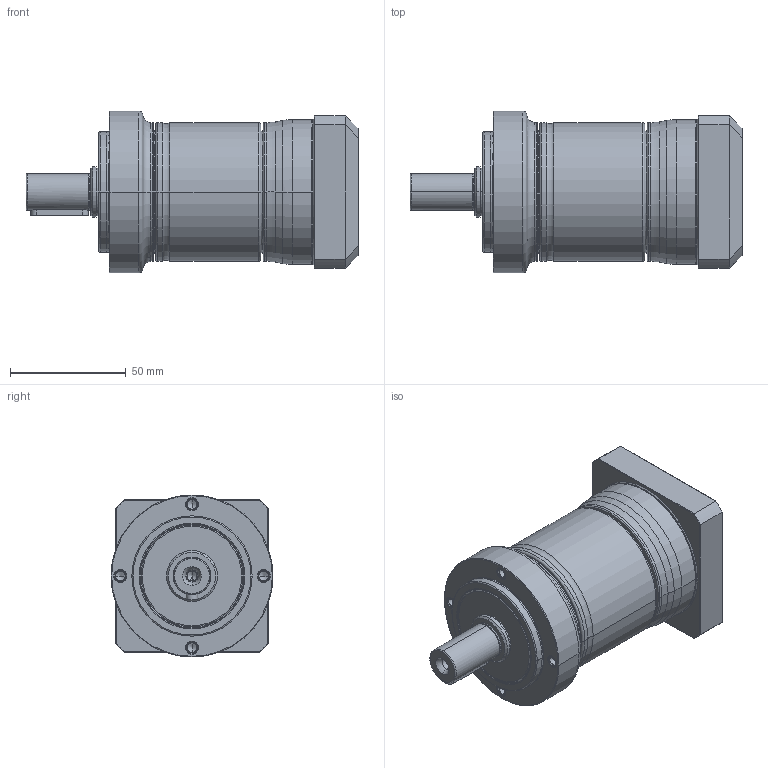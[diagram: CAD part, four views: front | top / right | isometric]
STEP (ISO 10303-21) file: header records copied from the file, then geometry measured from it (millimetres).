
FILE_DESCRIPTION((''),'2;1');
FILE_NAME('PE2-070_2ST_14-P0411300101_ASM','2016-04-27T',('d00435'),(''),'PRO/ENGINEER BY PARAMETRIC TECHNOLOGY CORPORATION, 2008410','PRO/ENGINEER BY PARAMETRIC TECHNOLOGY CORPORATION, 2008410','');
FILE_SCHEMA(('CONFIG_CONTROL_DESIGN'));
Length unit declared in the file: millimetre
Products named in the file (9): P1323210001; P0251200001; P1324200201; P0350201001; P0941202001; P0503300005; P0411300101; P1702300001; PE2-070_2ST_14-P0411300101_ASM
Assembly tree (8 placements, depth 2):
  PE2-070_2ST_14-P0411300101_ASM
    P1323210001
    P0251200001
    P1324200201
    P0350201001
    P0941202001
    P0503300005
    P0411300101
    P1702300001
Bounding box: 143.5 x 70 x 70 mm (x, y, z)
Volume: 269723.8 mm3; surface area: 83696.5 mm2
Topology: 8 solids, 22 shells, 528 faces, 1184 edges, 700 vertices
Faces by surface type: cylinder 168, cone 142, torus 104, plane 96, bspline 18
Entity records: 19340 total; most frequent: CARTESIAN_POINT 7259, DIRECTION 2781, ORIENTED_EDGE 2240, AXIS2_PLACEMENT_3D 1205, EDGE_CURVE 1148, VERTEX_POINT 700, CIRCLE 668, EDGE_LOOP 608
